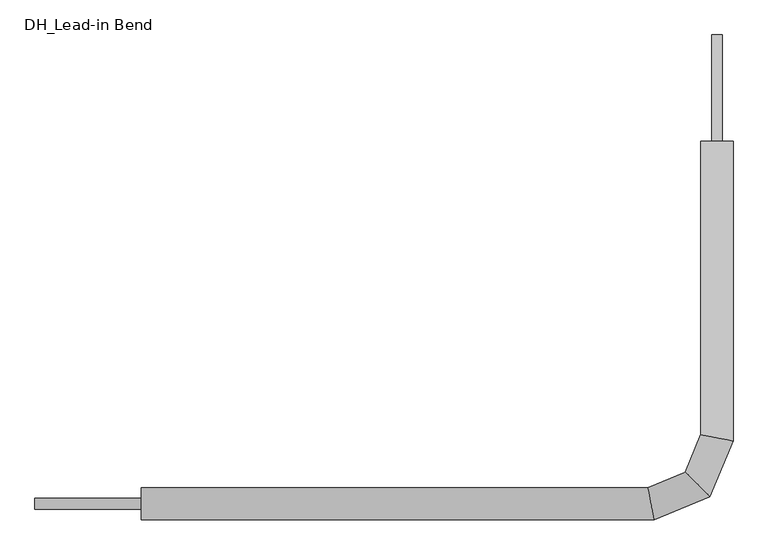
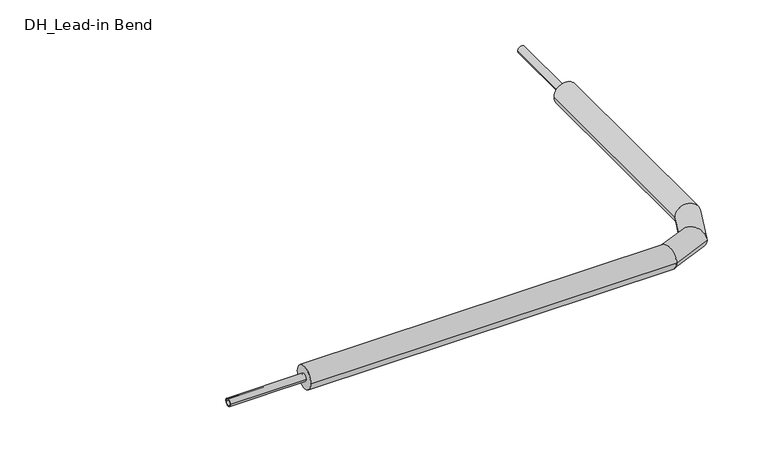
"""IFC4 building model written with IfcOpenShell, lengths in millimetres: pipe fitting geometry, DH_Lead-in Bend : RVT/RVX/RTX UNO 7.4 MKV DW."""

import ifcopenshell
import ifcopenshell.guid

model = None  # the IFC model being written
_history = None  # IfcOwnerHistory: only IFC2X3 demands one
_inside = {}  # id of a spatial element -> (the spatial element, [elements in it])
_under = {}  # id of a project, library or spatial element -> (it, [spatial elements below it])
_declared = {}  # id of a project -> (the project, [libraries it declares])
_typed = {}  # id of a type object -> (the type object, [elements of that type])
_made_of = {}  # id of a material, layer set ... -> (it, [elements and type objects made of it])


def new_model(schema):
    """Start an empty IFC model of exactly this schema.

    Asked for "IFC4X3", IfcOpenShell would pick the latest addendum, in which some entities
    have other attributes; the version numbers below select the first issue.
    IFC2X3 requires an IfcOwnerHistory on every rooted entity: one is made here for all.
    """
    global model, _history
    if schema == "IFC4X3":
        model = ifcopenshell.file(schema_version=(4, 3, 0, 0))
    else:
        model = ifcopenshell.file(schema=schema)
    _inside.clear()
    _under.clear()
    _declared.clear()
    _typed.clear()
    _made_of.clear()
    _history = None
    if model.schema == "IFC2X3":
        org = make("IfcOrganization", Name="unknown")
        user = make(
            "IfcPersonAndOrganization",
            ThePerson=make("IfcPerson", FamilyName="unknown"),
            TheOrganization=org,
        )
        app = make(
            "IfcApplication",
            ApplicationDeveloper=org,
            Version="unknown",
            ApplicationFullName="unknown",
            ApplicationIdentifier="unknown",
        )
        _history = make(
            "IfcOwnerHistory",
            OwningUser=user,
            OwningApplication=app,
            ChangeAction="ADDED",
            CreationDate=0,
        )
    return model


def make(cls, **values):
    """One entity of the class cls with the attributes given. An attribute that is None is left unset."""
    return model.create_entity(
        cls, **{name: value for name, value in values.items() if value is not None}
    )


def rooted(cls, **values):
    """An entity with a GlobalId (a new one), such as an element, a storey or a relation."""
    return make(cls, GlobalId=ifcopenshell.guid.new(), OwnerHistory=_history, **values)


def si_unit(unit_type, name, prefix=None):
    """IfcSIUnit, for example si_unit("LENGTHUNIT", "METRE", prefix="MILLI")."""
    return make("IfcSIUnit", UnitType=unit_type, Prefix=prefix, Name=name)


def assignment(units):
    """IfcUnitAssignment: the units of a project."""
    return None if units is None else make("IfcUnitAssignment", Units=units)


def point(xyz):
    """IfcCartesianPoint."""
    return None if xyz is None else make("IfcCartesianPoint", Coordinates=xyz)


def direction(xyz):
    """IfcDirection."""
    return None if xyz is None else make("IfcDirection", DirectionRatios=xyz)


def frame(location, z_axis=None, x_axis=None):
    """IfcAxis2Placement3D, a coordinate frame: its origin and axes. An axis left out is left unset."""
    return make(
        "IfcAxis2Placement3D",
        Location=point(location),
        Axis=direction(z_axis),
        RefDirection=direction(x_axis),
    )


def frame_2d(location, x_axis=None):
    """IfcAxis2Placement2D, a coordinate frame in the plane: its origin and x axis."""
    return make(
        "IfcAxis2Placement2D", Location=point(location), RefDirection=direction(x_axis)
    )


def origin():
    """The frame at (0, 0, 0) with its axes left unset."""
    return frame((0.0, 0.0, 0.0))


def origin_2d():
    """The frame at (0, 0) in the plane with its x axis left unset."""
    return frame_2d((0.0, 0.0))


def place(relative_to, where):
    """IfcLocalPlacement: puts the frame where relative to a parent placement (None: the world)."""
    return make(
        "IfcLocalPlacement", PlacementRelTo=relative_to, RelativePlacement=where
    )


def context(
    kind, dimensions, precision=None, world=None, true_north=None, identifier=None
):
    """IfcGeometricRepresentationContext, for example the 3D "Model" context."""
    return make(
        "IfcGeometricRepresentationContext",
        ContextIdentifier=identifier,
        ContextType=kind,
        CoordinateSpaceDimension=dimensions,
        Precision=precision,
        WorldCoordinateSystem=world,
        TrueNorth=true_north,
    )


def project(units=None, contexts=None):
    """IfcProject with its units and contexts."""
    return rooted(
        "IfcProject",
        Name="project",
        RepresentationContexts=contexts,
        UnitsInContext=assignment(units),
    )


def spatial(cls, under=None, at=None, **own):
    """A site, building, storey or space (cls), placed at a placement, below another one or the project."""
    s = rooted(cls, ObjectPlacement=at, **own)
    if under is not None:
        _under.setdefault(under.id(), (under, []))[1].append(s)
    return s


def circle_curve(where, radius):
    """IfcCircle in the frame where."""
    return make("IfcCircle", Position=where, Radius=radius)


def ellipse_curve(where, semi_axis1, semi_axis2):
    """IfcEllipse in the frame where."""
    return make(
        "IfcEllipse", Position=where, SemiAxis1=semi_axis1, SemiAxis2=semi_axis2
    )


def trimmed(basis, trim1, trim2, sense, master):
    """IfcTrimmedCurve: the piece of a basis curve between two trims."""
    return make(
        "IfcTrimmedCurve",
        BasisCurve=basis,
        Trim1=trim1,
        Trim2=trim2,
        SenseAgreement=sense,
        MasterRepresentation=master,
    )


def segment(curve, same_sense, transition):
    """IfcCompositeCurveSegment."""
    return make(
        "IfcCompositeCurveSegment",
        Transition=transition,
        SameSense=same_sense,
        ParentCurve=curve,
    )


def composite_curve(segments, self_intersect=None):
    """IfcCompositeCurve: segments joined end to end."""
    return make("IfcCompositeCurve", Segments=segments, SelfIntersect=self_intersect)


def outline(outer, holes=None, kind="AREA"):
    """IfcArbitraryClosedProfileDef: a profile drawn as a closed curve; with holes, ...WithVoids."""
    if holes is None:
        return make("IfcArbitraryClosedProfileDef", ProfileType=kind, OuterCurve=outer)
    return make(
        "IfcArbitraryProfileDefWithVoids",
        ProfileType=kind,
        OuterCurve=outer,
        InnerCurves=holes,
    )


def extrude(swept, where, along, depth):
    """IfcExtrudedAreaSolid: the profile swept, set in the frame where, extruded along a direction by depth."""
    return make(
        "IfcExtrudedAreaSolid",
        SweptArea=swept,
        Position=where,
        ExtrudedDirection=direction(along),
        Depth=depth,
    )


def shape(context_of_items, identifier, shape_type, items):
    """IfcShapeRepresentation: the items that make up one representation, for example the "Body"."""
    return make(
        "IfcShapeRepresentation",
        ContextOfItems=context_of_items,
        RepresentationIdentifier=identifier,
        RepresentationType=shape_type,
        Items=items,
    )


def source(mapping_origin, context_of_items, identifier, shape_type, items):
    """IfcRepresentationMap: a shape defined once, which mapped items show again and again."""
    return make(
        "IfcRepresentationMap",
        MappingOrigin=mapping_origin,
        MappedRepresentation=shape(context_of_items, identifier, shape_type, items),
    )


def transform(
    local_origin,
    x_axis=None,
    y_axis=None,
    z_axis=None,
    scale=None,
    scale2=None,
    scale3=None,
    uniform=True,
):
    """IfcCartesianTransformationOperator3D, or its non-uniform kind. x_axis, y_axis, z_axis: its Axis1, 2, 3."""
    if uniform:
        return make(
            "IfcCartesianTransformationOperator3D",
            Axis1=direction(x_axis),
            Axis2=direction(y_axis),
            LocalOrigin=point(local_origin),
            Scale=scale,
            Axis3=direction(z_axis),
        )
    return make(
        "IfcCartesianTransformationOperator3DnonUniform",
        Axis1=direction(x_axis),
        Axis2=direction(y_axis),
        LocalOrigin=point(local_origin),
        Scale=scale,
        Axis3=direction(z_axis),
        Scale2=scale2,
        Scale3=scale3,
    )


def mapped(mapping_source, mapping_target):
    """IfcMappedItem: shows the shape of a source again, moved by a transform."""
    return make(
        "IfcMappedItem", MappingSource=mapping_source, MappingTarget=mapping_target
    )


def made_of(thing, what):
    """Note that an element or type object is made of a material, layer set ...; save() writes the relation."""
    if what is not None:
        _made_of.setdefault(what.id(), (what, []))[1].append(thing)
    return thing


def element(
    cls,
    number,
    at=None,
    inside=None,
    cuts=None,
    type_object=None,
    material=None,
    context=None,
    identifier="Body",
    shape_type=None,
    held_by="IfcProductDefinitionShape",
    body=None,
    shapes=None,
    **own,
):
    """One element of the class cls, such as IfcWall. Its Tag is "e" and its number.

    at: its placement. inside: the storey or other place that contains it. cuts: it is an
    opening in that element (IfcRelVoidsElement). A single representation is given by context,
    identifier, shape_type and body (its items); several are given by shapes. held_by: the class
    of the entity that holds the representations. save() writes the other relations.
    """
    e = rooted(cls, Tag="e%d" % number, ObjectPlacement=at, **own)
    if body is not None:
        shapes = [shape(context, identifier, shape_type, body)]
    if shapes is not None:
        e.Representation = make(held_by, Representations=shapes)
    if inside is not None:
        _inside.setdefault(inside.id(), (inside, []))[1].append(e)
    if cuts is not None:
        rooted(
            "IfcRelVoidsElement", RelatingBuildingElement=cuts, RelatedOpeningElement=e
        )
    if type_object is not None:
        _typed.setdefault(type_object.id(), (type_object, []))[1].append(e)
    return made_of(e, material)


def aggregate(whole, parts):
    """IfcRelAggregates: a whole, such as a stair, and the parts it consists of."""
    return rooted("IfcRelAggregates", RelatingObject=whole, RelatedObjects=parts)


def save(model, path):
    """Write the relations noted so far, then the file.

    IfcRelAggregates (storeys below a building ...), IfcRelContainedInSpatialStructure (elements
    in a storey), IfcRelDefinesByType, IfcRelAssociatesMaterial and IfcRelDeclares: one each for
    every whole, place, type object, material and project.
    """
    for whole, parts in _under.values():
        aggregate(whole, parts)
    for where, things in _inside.values():
        rooted(
            "IfcRelContainedInSpatialStructure",
            RelatedElements=things,
            RelatingStructure=where,
        )
    for kind, things in _typed.values():
        rooted("IfcRelDefinesByType", RelatedObjects=things, RelatingType=kind)
    for what, things in _made_of.values():
        rooted("IfcRelAssociatesMaterial", RelatedObjects=things, RelatingMaterial=what)
    for by, libraries in _declared.values():
        rooted("IfcRelDeclares", RelatingContext=by, RelatedDefinitions=libraries)
    model.write(path)


def plane_surface(at):
    """IfcPlane: the flat surface through the origin of the frame at, square to its z axis."""
    return make("IfcPlane", Position=at)


def cylinder_surface(at, radius):
    """IfcCylindricalSurface: all points at the distance radius from the z axis of the frame at."""
    return make("IfcCylindricalSurface", Position=at, Radius=radius)


def advanced_brep(points, edges, surfaces, faces):
    """IfcAdvancedBrep: a solid bounded by faces that lie on surfaces and meet in shared edges.

    An edge is (start, end): straight between two places in points (the first is 0);
    or (start, end, curve); or (start, end, curve, False) where it runs against its curve.
    A face is (place in surfaces, loops), or (place, loops, False) where it looks against
    its surface's normal. A loop lists edges by number (the first is 1), with a minus sign
    where the edge is run from its end to its start. The first loop is the outer one.
    """
    corners = [point(p) for p in points]
    vertices = [make("IfcVertexPoint", VertexGeometry=c) for c in corners]
    made = []
    for start, end, *more in edges:
        made.append(
            make(
                "IfcEdgeCurve",
                EdgeStart=vertices[start],
                EdgeEnd=vertices[end],
                EdgeGeometry=more[0] if more else make("IfcPolyline", Points=[corners[start], corners[end]]),
                SameSense=more[1] if len(more) > 1 else True,
            )
        )
    hull = []
    for where, loops, *sense in faces:
        bounds = []
        for j, loop in enumerate(loops):
            ring = [make("IfcOrientedEdge", EdgeElement=made[abs(k) - 1], Orientation=k > 0) for k in loop]
            bounds.append(
                make(
                    "IfcFaceOuterBound" if j == 0 else "IfcFaceBound",
                    Bound=make("IfcEdgeLoop", EdgeList=ring),
                    Orientation=True,
                )
            )
        hull.append(make("IfcAdvancedFace", Bounds=bounds, FaceSurface=surfaces[where], SameSense=sense[0] if sense else True))
    return make("IfcAdvancedBrep", Outer=make("IfcClosedShell", CfsFaces=hull))


def dh_lead_in_bend_de081a9f(model_context):
    return source(origin(), model_context, "Body", "SolidModel", [
        advanced_brep(
        [(-1350.0, -38.0, 0.0), (-1350.0, 38.0, 0.0), (-147.44133, -38.0, 0.0), (-162.55867, 38.0, 0.0), (38.0, 850.0, 0.0), (-38.0, 850.0, 0.0), (-38.0, 162.55867, 0.0), (38.0, 147.44133, 0.0), (-16.3145081, 16.3145081, 0.0), (-74.4823898, 74.4823898, 0.0)],
        [
            (0, 1, circle_curve(frame((-1350.0, 0.0, 0.0), z_axis=(-1.0, 0.0, 0.0), x_axis=(0.0, 1.0, 0.0)), 38.0)),
            (1, 0, circle_curve(frame((-1350.0, 0.0, 0.0), z_axis=(-1.0, 0.0, 0.0), x_axis=(0.0, 1.0, 0.0)), 38.0)),
            (0, 2),
            (2, 3, ellipse_curve(frame((-155.0, 0.0, 0.0), z_axis=(-0.9807852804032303, -0.19509032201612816, 0.0), x_axis=(-0.19509032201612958, 0.9807852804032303, 0.0)), 38.744464, 38.0)),
            (3, 1),
            (3, 2, ellipse_curve(frame((-155.0, 0.0, 0.0), z_axis=(-0.9807852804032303, -0.19509032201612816, 0.0), x_axis=(-0.19509032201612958, 0.9807852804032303, 0.0)), 38.744464, 38.0)),
            (4, 5, circle_curve(frame((0.0, 850.0, 0.0), z_axis=(0.0, 1.0, 0.0), x_axis=(-1.0, 0.0, 0.0)), 38.0)),
            (5, 4, circle_curve(frame((0.0, 850.0, 0.0), z_axis=(0.0, 1.0, 0.0), x_axis=(-1.0, 0.0, 0.0)), 38.0)),
            (6, 7, ellipse_curve(frame((0.0, 155.0, 0.0), z_axis=(0.1950903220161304, 0.9807852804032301, 0.0), x_axis=(0.9807852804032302, -0.1950903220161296, 0.0)), 38.744464, 38.0)),
            (7, 4),
            (5, 6),
            (7, 6, ellipse_curve(frame((0.0, 155.0, 0.0), z_axis=(0.1950903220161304, 0.9807852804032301, 0.0), x_axis=(0.9807852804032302, -0.1950903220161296, 0.0)), 38.744464, 38.0)),
            (2, 8),
            (8, 9, ellipse_curve(frame((-45.3984489, 45.3984489, 0.0), z_axis=(-0.707106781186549, -0.7071067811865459, 0.0), x_axis=(-0.7071067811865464, 0.7071067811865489, 0.0)), 41.1309036, 38.0)),
            (9, 3),
            (9, 8, ellipse_curve(frame((-45.3984489, 45.3984489, 0.0), z_axis=(-0.707106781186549, -0.7071067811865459, 0.0), x_axis=(-0.7071067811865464, 0.7071067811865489, 0.0)), 41.1309036, 38.0)),
            (8, 7),
            (6, 9),
        ],
        [
            plane_surface(frame((-1350.0, 0.0, 0.0), z_axis=(-1.0, 0.0, 0.0), x_axis=(0.0, 0.0, 1.0))),
            cylinder_surface(frame((-1350.0, 0.0, 0.0), z_axis=(-1.0, 0.0, 0.0), x_axis=(0.0, 1.0, 0.0)), 38.0),
            plane_surface(frame((0.0, 850.0, 0.0), z_axis=(0.0, 1.0, 0.0), x_axis=(0.0, 0.0, 1.0))),
            cylinder_surface(frame((0.0, 155.0, 0.0), z_axis=(0.0, -1.0, 0.0), x_axis=(-1.0, 0.0, 0.0)), 38.0),
            cylinder_surface(frame((-155.0, 0.0, 0.0), z_axis=(-0.9238795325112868, -0.38268343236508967, 0.0), x_axis=(-0.38268343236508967, 0.9238795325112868, 0.0)), 38.0),
            cylinder_surface(frame((-45.3984489, 45.3984489, 0.0), z_axis=(-0.3826834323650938, -0.9238795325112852, 0.0), x_axis=(-0.9238795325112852, 0.3826834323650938, 0.0)), 38.0),
        ],
        [
            (0, [[1, 2]]),
            (1, [[-1, 3, 4, 5]]),
            (1, [[-2, -5, 6, -3]]),
            (2, [[7, 8]]),
            (3, [[9, 10, -8, 11]]),
            (3, [[12, -11, -7, -10]]),
            (4, [[-4, 13, 14, 15]]),
            (4, [[-6, -15, 16, -13]]),
            (5, [[-14, 17, -9, 18]]),
            (5, [[-16, -18, -12, -17]]),
        ],
    ),
        extrude(outline(composite_curve([segment(trimmed(circle_curve(origin_2d(), 12.5), [point((-12.5, 0.0))], [point((12.5, 0.0))], False, "CARTESIAN"), True, "CONTINUOUS"), segment(trimmed(circle_curve(origin_2d(), 12.5), [point((12.5, 0.0))], [point((-12.5, 0.0))], False, "CARTESIAN"), True, "CONTINUOUS")], self_intersect=False), holes=[composite_curve([segment(trimmed(circle_curve(origin_2d(), 9.0), [point((-9.0, 0.0))], [point((9.0, 0.0))], True, "CARTESIAN"), True, "CONTINUOUS"), segment(trimmed(circle_curve(origin_2d(), 9.0), [point((9.0, 0.0))], [point((-9.0, 0.0))], True, "CARTESIAN"), True, "CONTINUOUS")], self_intersect=False)]), frame((-1600.0, 0.0, 0.0), z_axis=(1.0, 0.0, 0.0), x_axis=(0.0, 1.0, 0.0)), (0.0, 0.0, 1.0), 250.0),
        extrude(outline(composite_curve([segment(trimmed(circle_curve(origin_2d(), 12.5), [point((0.0, 12.5))], [point((0.0, -12.5))], False, "CARTESIAN"), True, "CONTINUOUS"), segment(trimmed(circle_curve(origin_2d(), 12.5), [point((0.0, -12.5))], [point((0.0, 12.5))], False, "CARTESIAN"), True, "CONTINUOUS")], self_intersect=False), holes=[composite_curve([segment(trimmed(circle_curve(origin_2d(), 9.0), [point((0.0, 9.0))], [point((0.0, -9.0))], True, "CARTESIAN"), True, "CONTINUOUS"), segment(trimmed(circle_curve(origin_2d(), 9.0), [point((0.0, -9.0))], [point((0.0, 9.0))], True, "CARTESIAN"), True, "CONTINUOUS")], self_intersect=False)]), frame((0.0, 850.0, 0.0), z_axis=(0.0, 1.0, 0.0), x_axis=(0.0, 0.0, 1.0)), (0.0, 0.0, 1.0), 250.0),
    ])


if __name__ == "__main__":
    model = new_model("IFC4")
    model_context = context("Model", 3, world=origin())
    ifc_project = project(units=[si_unit("LENGTHUNIT", "METRE", prefix="MILLI")], contexts=[model_context])
    site = spatial("IfcSite", under=ifc_project)
    building = spatial("IfcBuilding", under=site)
    placement = place(None, origin())
    dh_lead_in_bend_shape = dh_lead_in_bend_de081a9f(model_context)
    element("IfcPipeFitting", 1, ObjectType="DH_Lead-in Bend : RVT/RVX/RTX UNO 7.4 MKV DW", at=placement, inside=building, context=model_context, shape_type="MappedRepresentation", body=[
        mapped(dh_lead_in_bend_shape, transform((0.0, 0.0, 0.0), x_axis=(1.0, 0.0, 0.0), y_axis=(0.0, 1.0, 0.0), z_axis=(0.0, 0.0, 1.0))),
    ])
    save(model, "model.ifc")
